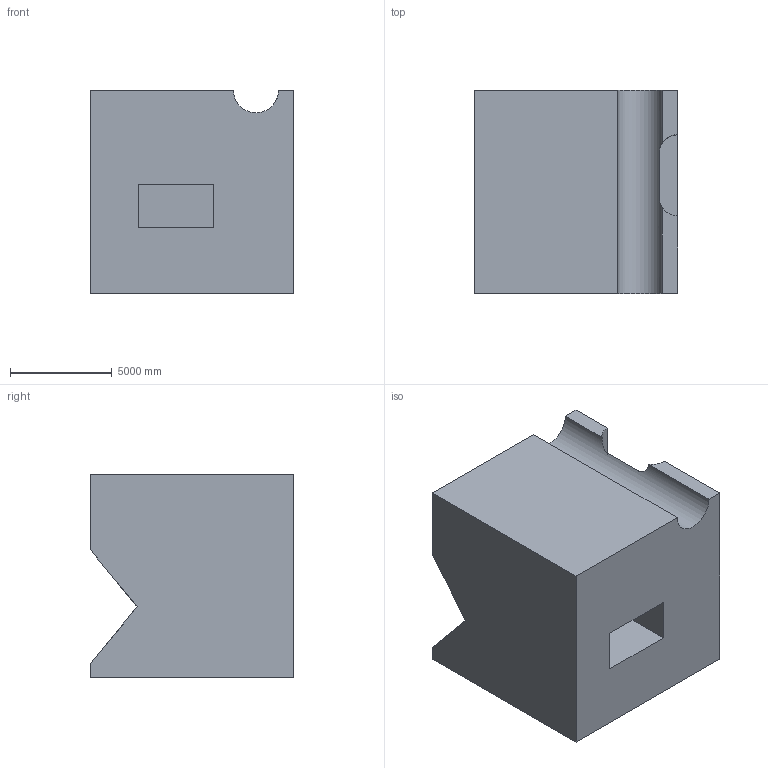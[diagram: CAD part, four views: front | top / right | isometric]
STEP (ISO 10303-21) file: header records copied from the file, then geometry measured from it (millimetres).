
FILE_DESCRIPTION (( 'STEP AP203' ), '1' );
FILE_NAME ('363.STEP', '2022-07-28T14:29:40', ( 'user' ), ( '' ), 'SwSTEP 2.0', 'SolidWorks 2021', '' );
FILE_SCHEMA (( 'CONFIG_CONTROL_DESIGN' ));
Length unit declared in the file: centimetre
Products named in the file (1): 363
Bounding box: 10000 x 10000 x 10000 mm (x, y, z)
Volume: 841300118466.7 mm3; surface area: 693468734.8 mm2
Topology: 1 solids, 1 shells, 22 faces, 57 edges, 38 vertices
Faces by surface type: plane 19, cylinder 3
Entity records: 852 total; most frequent: CARTESIAN_POINT 236, ORIENTED_EDGE 114, DIRECTION 105, EDGE_CURVE 57, VECTOR 47, LINE 47, VERTEX_POINT 38, AXIS2_PLACEMENT_3D 29
